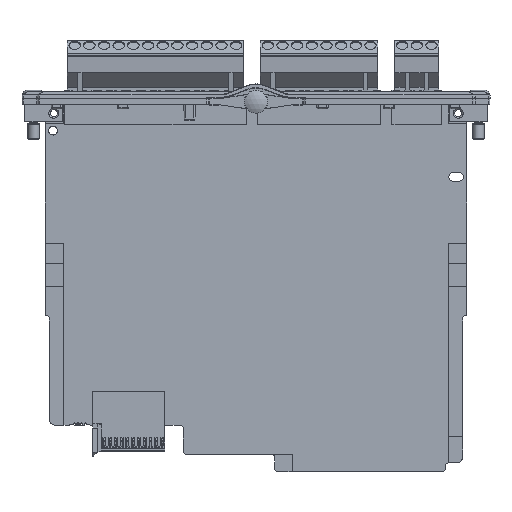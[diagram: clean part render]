
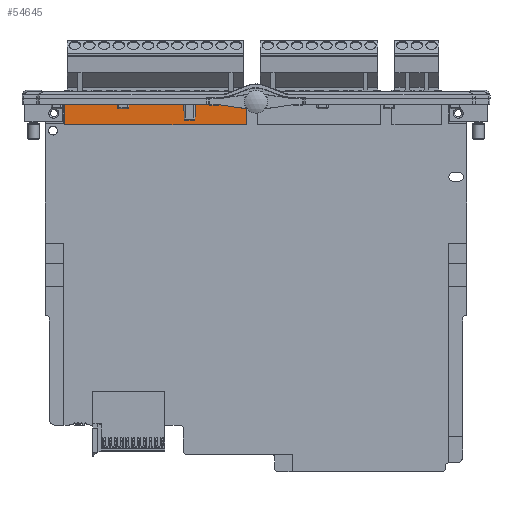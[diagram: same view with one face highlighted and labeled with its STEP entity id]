
A CAD part, top view. The second image highlights one B-rep face of the part: STEP entity #54645.
In plain terms, the highlighted planar face has unit normal (0, 0, 1).
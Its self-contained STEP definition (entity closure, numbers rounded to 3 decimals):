
#5168=FACE_OUTER_BOUND('',#8275,.T.);
#8275=EDGE_LOOP('',(#40811,#40812,#40813,#40814));
#13380=LINE('',#84947,#18795);
#13381=LINE('',#84950,#18796);
#13382=LINE('',#84952,#18797);
#13383=LINE('',#84953,#18798);
#18795=VECTOR('',#68607,10.);
#18796=VECTOR('',#68610,10.);
#18797=VECTOR('',#68611,10.);
#18798=VECTOR('',#68612,10.);
#23328=VERTEX_POINT('',#84943);
#23329=VERTEX_POINT('',#84945);
#23330=VERTEX_POINT('',#84949);
#23331=VERTEX_POINT('',#84951);
#29541=EDGE_CURVE('',#23328,#23329,#13380,.T.);
#29542=EDGE_CURVE('',#23330,#23328,#13381,.T.);
#29543=EDGE_CURVE('',#23331,#23329,#13382,.T.);
#29544=EDGE_CURVE('',#23330,#23331,#13383,.T.);
#40811=ORIENTED_EDGE('',*,*,#29542,.T.);
#40812=ORIENTED_EDGE('',*,*,#29541,.T.);
#40813=ORIENTED_EDGE('',*,*,#29543,.F.);
#40814=ORIENTED_EDGE('',*,*,#29544,.F.);
#49475=PLANE('',#58236);
#54645=ADVANCED_FACE('',(#5168),#49475,.T.);
#58236=AXIS2_PLACEMENT_3D('',#84948,#68608,#68609);
#68607=DIRECTION('',(-1.,0.,0.));
#68608=DIRECTION('center_axis',(0.,0.,
1.));
#68609=DIRECTION('ref_axis',(0.,1.,0.));
#68610=DIRECTION('',(0.,1.,0.));
#68611=DIRECTION('',(0.,1.,0.));
#68612=DIRECTION('',(-1.,0.,0.));
#84943=CARTESIAN_POINT('',(-3.338,2.004,8.1));
#84945=CARTESIAN_POINT('',(-66.298,2.004,8.1));
#84947=CARTESIAN_POINT('',(-3.338,2.004,8.1));
#84948=CARTESIAN_POINT('Origin',(-3.338,-6.996,8.1));
#84949=CARTESIAN_POINT('',(-3.338,-6.996,8.1));
#84950=CARTESIAN_POINT('',(-3.338,-6.996,8.1));
#84951=CARTESIAN_POINT('',(-66.298,-6.996,8.1));
#84952=CARTESIAN_POINT('',(-66.298,-6.996,8.1));
#84953=CARTESIAN_POINT('',(-3.338,-6.996,8.1));
